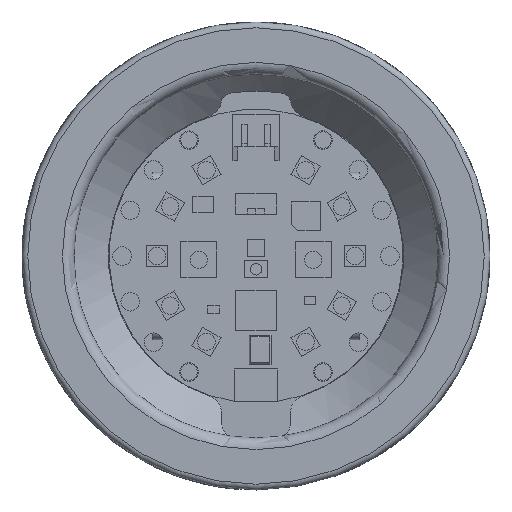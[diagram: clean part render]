
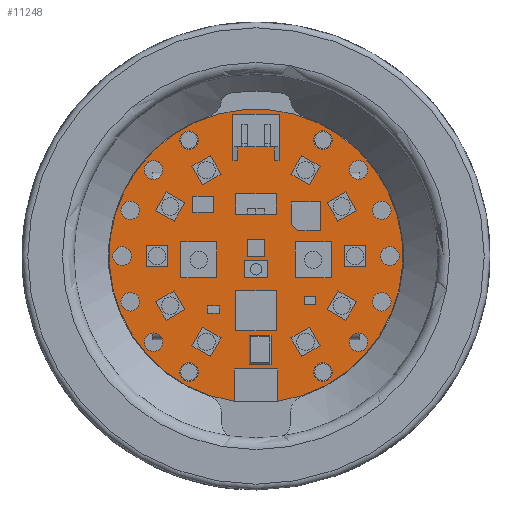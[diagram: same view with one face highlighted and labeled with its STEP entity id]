
A CAD part, top view. The second image highlights one B-rep face of the part: STEP entity #11248.
In plain terms, the highlighted planar face has unit normal (0, 0, 1).
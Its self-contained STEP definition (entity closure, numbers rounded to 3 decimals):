
#1094=CIRCLE('',#11999,1.6);
#1096=CIRCLE('',#12002,1.6);
#1098=CIRCLE('',#12005,1.6);
#1100=CIRCLE('',#12008,1.6);
#1102=CIRCLE('',#12011,1.6);
#1104=CIRCLE('',#12014,1.6);
#1106=CIRCLE('',#12017,1.6);
#1108=CIRCLE('',#12020,1.6);
#1110=CIRCLE('',#12023,1.6);
#1112=CIRCLE('',#12026,1.6);
#1114=CIRCLE('',#12029,1.6);
#1116=CIRCLE('',#12032,1.6);
#1118=CIRCLE('',#12035,1.6);
#1120=CIRCLE('',#12038,1.6);
#1121=CIRCLE('',#12041,25.43);
#1639=FACE_BOUND('',#2412,.T.);
#1640=FACE_BOUND('',#2413,.T.);
#1641=FACE_BOUND('',#2414,.T.);
#1642=FACE_BOUND('',#2415,.T.);
#1643=FACE_BOUND('',#2416,.T.);
#1644=FACE_BOUND('',#2417,.T.);
#1645=FACE_BOUND('',#2418,.T.);
#1646=FACE_BOUND('',#2419,.T.);
#1647=FACE_BOUND('',#2420,.T.);
#1648=FACE_BOUND('',#2421,.T.);
#1649=FACE_BOUND('',#2422,.T.);
#1650=FACE_BOUND('',#2423,.T.);
#1651=FACE_BOUND('',#2424,.T.);
#1652=FACE_BOUND('',#2425,.T.);
#1742=FACE_OUTER_BOUND('',#2411,.T.);
#2411=EDGE_LOOP('',(#7549,#7550));
#2412=EDGE_LOOP('',(#7551));
#2413=EDGE_LOOP('',(#7552));
#2414=EDGE_LOOP('',(#7553));
#2415=EDGE_LOOP('',(#7554));
#2416=EDGE_LOOP('',(#7555));
#2417=EDGE_LOOP('',(#7556));
#2418=EDGE_LOOP('',(#7557));
#2419=EDGE_LOOP('',(#7558));
#2420=EDGE_LOOP('',(#7559));
#2421=EDGE_LOOP('',(#7560));
#2422=EDGE_LOOP('',(#7561));
#2423=EDGE_LOOP('',(#7562));
#2424=EDGE_LOOP('',(#7563));
#2425=EDGE_LOOP('',(#7564));
#3168=LINE('',#15358,#3802);
#3802=VECTOR('',#13045,10.);
#4407=VERTEX_POINT('',#15274);
#4409=VERTEX_POINT('',#15280);
#4411=VERTEX_POINT('',#15286);
#4413=VERTEX_POINT('',#15292);
#4415=VERTEX_POINT('',#15298);
#4417=VERTEX_POINT('',#15304);
#4419=VERTEX_POINT('',#15310);
#4421=VERTEX_POINT('',#15316);
#4423=VERTEX_POINT('',#15322);
#4425=VERTEX_POINT('',#15328);
#4427=VERTEX_POINT('',#15334);
#4429=VERTEX_POINT('',#15340);
#4431=VERTEX_POINT('',#15346);
#4433=VERTEX_POINT('',#15352);
#4434=VERTEX_POINT('',#15356);
#4435=VERTEX_POINT('',#15357);
#5630=EDGE_CURVE('',#4407,#4407,#1094,.T.);
#5633=EDGE_CURVE('',#4409,#4409,#1096,.T.);
#5636=EDGE_CURVE('',#4411,#4411,#1098,.T.);
#5639=EDGE_CURVE('',#4413,#4413,#1100,.T.);
#5642=EDGE_CURVE('',#4415,#4415,#1102,.T.);
#5645=EDGE_CURVE('',#4417,#4417,#1104,.T.);
#5648=EDGE_CURVE('',#4419,#4419,#1106,.T.);
#5651=EDGE_CURVE('',#4421,#4421,#1108,.T.);
#5654=EDGE_CURVE('',#4423,#4423,#1110,.T.);
#5657=EDGE_CURVE('',#4425,#4425,#1112,.T.);
#5660=EDGE_CURVE('',#4427,#4427,#1114,.T.);
#5663=EDGE_CURVE('',#4429,#4429,#1116,.T.);
#5666=EDGE_CURVE('',#4431,#4431,#1118,.T.);
#5669=EDGE_CURVE('',#4433,#4433,#1120,.T.);
#5670=EDGE_CURVE('',#4434,#4435,#3168,.T.);
#5674=EDGE_CURVE('',#4435,#4434,#1121,.T.);
#7549=ORIENTED_EDGE('',*,*,#5674,.T.);
#7550=ORIENTED_EDGE('',*,*,#5670,.T.);
#7551=ORIENTED_EDGE('',*,*,#5669,.T.);
#7552=ORIENTED_EDGE('',*,*,#5666,.T.);
#7553=ORIENTED_EDGE('',*,*,#5663,.T.);
#7554=ORIENTED_EDGE('',*,*,#5660,.T.);
#7555=ORIENTED_EDGE('',*,*,#5657,.T.);
#7556=ORIENTED_EDGE('',*,*,#5654,.T.);
#7557=ORIENTED_EDGE('',*,*,#5651,.T.);
#7558=ORIENTED_EDGE('',*,*,#5648,.T.);
#7559=ORIENTED_EDGE('',*,*,#5645,.T.);
#7560=ORIENTED_EDGE('',*,*,#5642,.T.);
#7561=ORIENTED_EDGE('',*,*,#5639,.T.);
#7562=ORIENTED_EDGE('',*,*,#5636,.T.);
#7563=ORIENTED_EDGE('',*,*,#5633,.T.);
#7564=ORIENTED_EDGE('',*,*,#5630,.T.);
#10945=PLANE('',#12043);
#11248=ADVANCED_FACE('',(#1742,#1639,#1640,#1641,#1642,#1643,#1644,#1645,
#1646,#1647,#1648,#1649,#1650,#1651,#1652),#10945,.T.);
#11999=AXIS2_PLACEMENT_3D('',#15276,#12950,#12951);
#12002=AXIS2_PLACEMENT_3D('',#15282,#12957,#12958);
#12005=AXIS2_PLACEMENT_3D('',#15288,#12964,#12965);
#12008=AXIS2_PLACEMENT_3D('',#15294,#12971,#12972);
#12011=AXIS2_PLACEMENT_3D('',#15300,#12978,#12979);
#12014=AXIS2_PLACEMENT_3D('',#15306,#12985,#12986);
#12017=AXIS2_PLACEMENT_3D('',#15312,#12992,#12993);
#12020=AXIS2_PLACEMENT_3D('',#15318,#12999,#13000);
#12023=AXIS2_PLACEMENT_3D('',#15324,#13006,#13007);
#12026=AXIS2_PLACEMENT_3D('',#15330,#13013,#13014);
#12029=AXIS2_PLACEMENT_3D('',#15336,#13020,#13021);
#12032=AXIS2_PLACEMENT_3D('',#15342,#13027,#13028);
#12035=AXIS2_PLACEMENT_3D('',#15348,#13034,#13035);
#12038=AXIS2_PLACEMENT_3D('',#15354,#13041,#13042);
#12041=AXIS2_PLACEMENT_3D('',#15365,#13051,#13052);
#12043=AXIS2_PLACEMENT_3D('',#15367,#13055,#13056);
#12950=DIRECTION('center_axis',(0.,0.,-1.));
#12951=DIRECTION('ref_axis',(1.,0.,0.));
#12957=DIRECTION('center_axis',(0.,0.,-1.));
#12958=DIRECTION('ref_axis',(1.,0.,0.));
#12964=DIRECTION('center_axis',(0.,0.,-1.));
#12965=DIRECTION('ref_axis',(1.,0.,0.));
#12971=DIRECTION('center_axis',(0.,0.,-1.));
#12972=DIRECTION('ref_axis',(1.,0.,0.));
#12978=DIRECTION('center_axis',(0.,0.,-1.));
#12979=DIRECTION('ref_axis',(1.,0.,0.));
#12985=DIRECTION('center_axis',(0.,0.,-1.));
#12986=DIRECTION('ref_axis',(1.,0.,0.));
#12992=DIRECTION('center_axis',(0.,0.,-1.));
#12993=DIRECTION('ref_axis',(1.,0.,0.));
#12999=DIRECTION('center_axis',(0.,0.,-1.));
#13000=DIRECTION('ref_axis',(1.,0.,0.));
#13006=DIRECTION('center_axis',(0.,0.,-1.));
#13007=DIRECTION('ref_axis',(1.,0.,0.));
#13013=DIRECTION('center_axis',(0.,0.,-1.));
#13014=DIRECTION('ref_axis',(1.,0.,0.));
#13020=DIRECTION('center_axis',(0.,0.,-1.));
#13021=DIRECTION('ref_axis',(1.,0.,0.));
#13027=DIRECTION('center_axis',(0.,0.,-1.));
#13028=DIRECTION('ref_axis',(1.,0.,0.));
#13034=DIRECTION('center_axis',(0.,0.,-1.));
#13035=DIRECTION('ref_axis',(1.,0.,0.));
#13041=DIRECTION('center_axis',(0.,0.,-1.));
#13042=DIRECTION('ref_axis',(1.,0.,0.));
#13045=DIRECTION('',(1.,0.,0.));
#13051=DIRECTION('center_axis',(0.,0.,1.));
#13052=DIRECTION('ref_axis',(1.,0.,0.));
#13055=DIRECTION('center_axis',(0.,0.,1.));
#13056=DIRECTION('ref_axis',(1.,0.,0.));
#15274=CARTESIAN_POINT('',(-13.191,20.071,0.));
#15276=CARTESIAN_POINT('Origin',(-11.591,20.071,0.));
#15280=CARTESIAN_POINT('',(-23.379,-7.929,0.));
#15282=CARTESIAN_POINT('Origin',(-21.779,-7.929,0.));
#15286=CARTESIAN_POINT('',(9.987,20.073,0.));
#15288=CARTESIAN_POINT('Origin',(11.587,20.073,0.));
#15292=CARTESIAN_POINT('',(-19.356,14.897,0.));
#15294=CARTESIAN_POINT('Origin',(-17.756,14.897,0.));
#15298=CARTESIAN_POINT('',(-24.778,-0.002,0.));
#15300=CARTESIAN_POINT('Origin',(-23.178,-0.002,0.));
#15304=CARTESIAN_POINT('',(-13.187,-20.073,0.));
#15306=CARTESIAN_POINT('Origin',(-11.587,-20.073,0.));
#15310=CARTESIAN_POINT('',(-19.354,-14.9,0.));
#15312=CARTESIAN_POINT('Origin',(-17.754,-14.9,0.));
#15316=CARTESIAN_POINT('',(9.991,-20.071,0.));
#15318=CARTESIAN_POINT('Origin',(11.591,-20.071,0.));
#15322=CARTESIAN_POINT('',(21.578,0.002,0.));
#15324=CARTESIAN_POINT('Origin',(23.178,0.002,0.));
#15328=CARTESIAN_POINT('',(16.154,14.9,0.));
#15330=CARTESIAN_POINT('Origin',(17.754,14.9,0.));
#15334=CARTESIAN_POINT('',(20.18,-7.925,0.));
#15336=CARTESIAN_POINT('Origin',(21.78,-7.925,0.));
#15340=CARTESIAN_POINT('',(16.156,-14.897,0.));
#15342=CARTESIAN_POINT('Origin',(17.756,-14.897,0.));
#15346=CARTESIAN_POINT('',(20.179,7.929,0.));
#15348=CARTESIAN_POINT('Origin',(21.779,7.929,0.));
#15352=CARTESIAN_POINT('',(-23.38,7.925,0.));
#15354=CARTESIAN_POINT('Origin',(-21.78,7.925,0.));
#15356=CARTESIAN_POINT('',(-3.763,-25.15,0.));
#15357=CARTESIAN_POINT('',(3.763,-25.15,0.));
#15358=CARTESIAN_POINT('',(-10.,-25.15,0.));
#15365=CARTESIAN_POINT('Origin',(0.,0.,0.));
#15367=CARTESIAN_POINT('Origin',(0.,0.14,0.));
